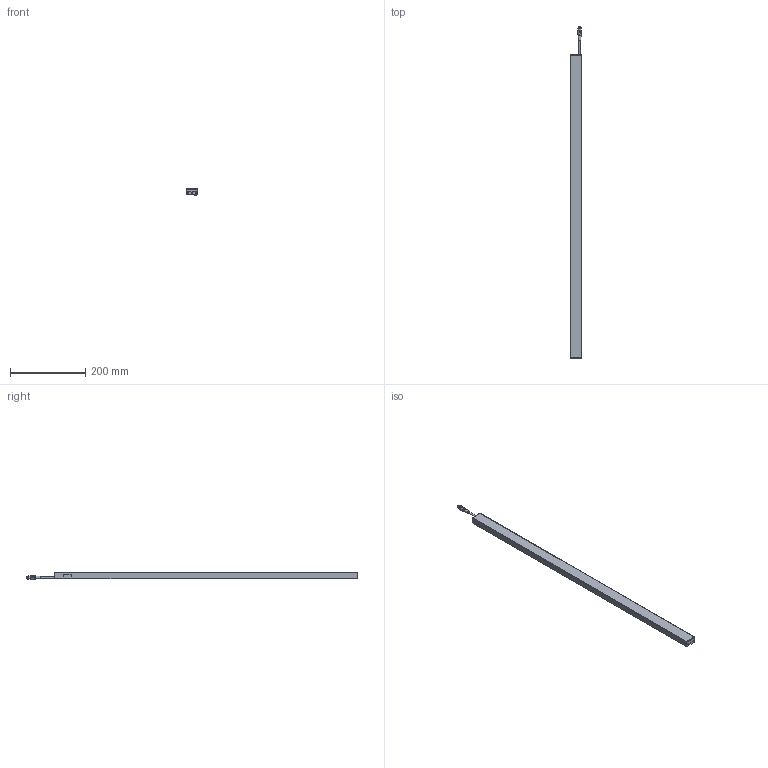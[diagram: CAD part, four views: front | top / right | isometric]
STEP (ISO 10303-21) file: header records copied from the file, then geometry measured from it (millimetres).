
FILE_DESCRIPTION(/* description */ (''),/* implementation_level */ '2;1');
FILE_NAME(/* name */ '10X.0105.YY_BB800',/* time_stamp */ '2024-08-21T09:04:49+02:00',/* author */ (''),/* organization */ ('iiM AG'),/* preprocessor_version */ 'ST-DEVELOPER v16.7',/* originating_system */ 'DEX',/* authorisation */ $);
FILE_SCHEMA (('CONFIG_CONTROL_DESIGN'));
Length unit declared in the file: millimetre
Products named in the file (1): bb800
Bounding box: 31 x 883.15 x 18.32 mm (x, y, z)
Volume: 241284.4 mm3; surface area: 157167.8 mm2
Topology: 2 solids, 2 shells, 218 faces, 567 edges, 368 vertices
Faces by surface type: cylinder 99, plane 98, cone 16, bspline 4, torus 1
Full cylindrical faces by diameter (mm): 1 x4, 2 x1, 3.242 x18, 4.1 x2, 4.2 x2, 5.7 x1, 6.35 x1, 8 x2, 9 x1, 9.3 x2, 10 x1
Entity records: 8508 total; most frequent: CARTESIAN_POINT 1922, DIRECTION 1078, ORIENTED_EDGE 988, EDGE_CURVE 494, AXIS2_PLACEMENT_3D 419, VERTEX_POINT 347, FACE_BOUND 299, EDGE_LOOP 293
